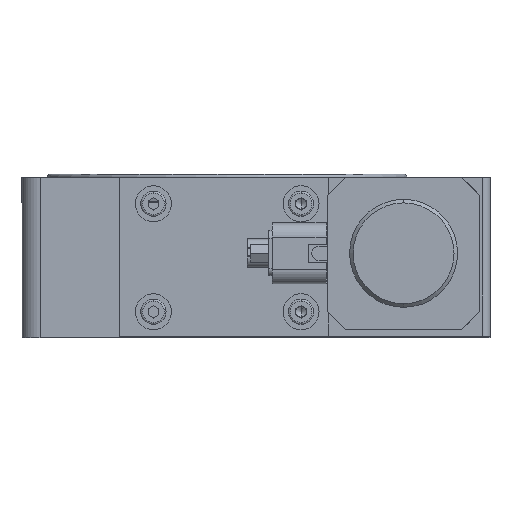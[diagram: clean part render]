
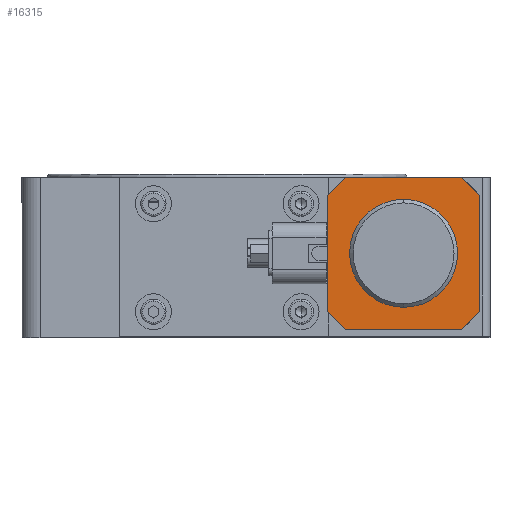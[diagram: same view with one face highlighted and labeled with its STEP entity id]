
A CAD part, front view. The second image highlights one B-rep face of the part: STEP entity #16315.
In plain terms, the highlighted planar face has unit normal (0, -1, 0).
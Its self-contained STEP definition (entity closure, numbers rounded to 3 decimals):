
#61 = CARTESIAN_POINT ( 'NONE',  ( 62.15, -101.5, 7.35 ) ) ;
#310 = DIRECTION ( 'NONE',  ( 1., 0., 0. ) ) ;
#340 = ORIENTED_EDGE ( 'NONE', *, *, #3564, .T. ) ;
#594 = DIRECTION ( 'NONE',  ( 1., 0., 0. ) ) ;
#665 = VECTOR ( 'NONE', #15042, 1000. ) ;
#696 = EDGE_LOOP ( 'NONE', ( #2695, #1306, #10348, #6926, #1589, #340, #8983, #2422 ) ) ;
#827 = EDGE_CURVE ( 'NONE', #13223, #8452, #4148, .T. ) ;
#1065 = VERTEX_POINT ( 'NONE', #2511 ) ;
#1306 = ORIENTED_EDGE ( 'NONE', *, *, #2491, .T. ) ;
#1582 = CARTESIAN_POINT ( 'NONE',  ( 24.85, -101.5, 44.65 ) ) ;
#1589 = ORIENTED_EDGE ( 'NONE', *, *, #18009, .F. ) ;
#1698 = CARTESIAN_POINT ( 'NONE',  ( 57.15, -101.5, 2.35 ) ) ;
#1976 = EDGE_CURVE ( 'NONE', #18186, #17349, #15851, .T. ) ;
#2387 = LINE ( 'NONE', #16041, #10203 ) ;
#2422 = ORIENTED_EDGE ( 'NONE', *, *, #3274, .T. ) ;
#2491 = EDGE_CURVE ( 'NONE', #18186, #1065, #3593, .T. ) ;
#2511 = CARTESIAN_POINT ( 'NONE',  ( 24.85, -101.5, 2.35 ) ) ;
#2614 = AXIS2_PLACEMENT_3D ( 'NONE', #19333, #11519, #594 ) ;
#2695 = ORIENTED_EDGE ( 'NONE', *, *, #1976, .F. ) ;
#3086 = VECTOR ( 'NONE', #18270, 1000. ) ;
#3274 = EDGE_CURVE ( 'NONE', #11503, #17349, #2387, .T. ) ;
#3564 = EDGE_CURVE ( 'NONE', #18095, #8299, #8956, .T. ) ;
#3593 = LINE ( 'NONE', #4367, #3086 ) ;
#4036 = ORIENTED_EDGE ( 'NONE', *, *, #15419, .F. ) ;
#4079 = CARTESIAN_POINT ( 'NONE',  ( 62.15, -101.5, 39.65 ) ) ;
#4148 = CIRCLE ( 'NONE', #13060, 2.5 ) ;
#4367 = CARTESIAN_POINT ( 'NONE',  ( 19.85, -101.5, 7.35 ) ) ;
#4833 = DIRECTION ( 'NONE',  ( 0., 0., -1. ) ) ;
#4986 = VECTOR ( 'NONE', #4833, 1000. ) ;
#4992 = CARTESIAN_POINT ( 'NONE',  ( 19.85, -101.5, 39.65 ) ) ;
#5249 = CARTESIAN_POINT ( 'NONE',  ( 19.85, -101.5, 7.35 ) ) ;
#5488 = LINE ( 'NONE', #9443, #4986 ) ;
#6926 = ORIENTED_EDGE ( 'NONE', *, *, #14307, .T. ) ;
#7798 = CARTESIAN_POINT ( 'NONE',  ( 19.85, -101.5, 2.35 ) ) ;
#8009 = VECTOR ( 'NONE', #18771, 1000. ) ;
#8012 = CIRCLE ( 'NONE', #2614, 2.5 ) ;
#8117 = CARTESIAN_POINT ( 'NONE',  ( 41., -101.5, 23.5 ) ) ;
#8299 = VERTEX_POINT ( 'NONE', #13040 ) ;
#8452 = VERTEX_POINT ( 'NONE', #8773 ) ;
#8585 = EDGE_CURVE ( 'NONE', #11503, #8299, #13250, .T. ) ;
#8628 = VERTEX_POINT ( 'NONE', #61 ) ;
#8696 = DIRECTION ( 'NONE',  ( 0., 0., 1. ) ) ;
#8773 = CARTESIAN_POINT ( 'NONE',  ( 43.5, -101.5, 23.5 ) ) ;
#8956 = LINE ( 'NONE', #4079, #665 ) ;
#8983 = ORIENTED_EDGE ( 'NONE', *, *, #8585, .F. ) ;
#9050 = VECTOR ( 'NONE', #11821, 1000. ) ;
#9205 = DIRECTION ( 'NONE',  ( -0.707, 0., -0.707 ) ) ;
#9443 = CARTESIAN_POINT ( 'NONE',  ( 62.15, -101.5, 2.35 ) ) ;
#9569 = ORIENTED_EDGE ( 'NONE', *, *, #827, .F. ) ;
#9680 = DIRECTION ( 'NONE',  ( 1., 0., 0. ) ) ;
#10203 = VECTOR ( 'NONE', #9205, 1000. ) ;
#10348 = ORIENTED_EDGE ( 'NONE', *, *, #19524, .F. ) ;
#10681 = VECTOR ( 'NONE', #8696, 1000. ) ;
#11008 = CARTESIAN_POINT ( 'NONE',  ( 19.85, -101.5, 2.35 ) ) ;
#11256 = DIRECTION ( 'NONE',  ( 0., 1., 0. ) ) ;
#11325 = PLANE ( 'NONE',  #18860 ) ;
#11503 = VERTEX_POINT ( 'NONE', #1582 ) ;
#11519 = DIRECTION ( 'NONE',  ( 0., -1., 0. ) ) ;
#11821 = DIRECTION ( 'NONE',  ( 1., 0., 0. ) ) ;
#12092 = CARTESIAN_POINT ( 'NONE',  ( 57.15, -101.5, 2.35 ) ) ;
#12380 = FACE_OUTER_BOUND ( 'NONE', #696, .T. ) ;
#12655 = DIRECTION ( 'NONE',  ( 0.707, 0., 0.707 ) ) ;
#13040 = CARTESIAN_POINT ( 'NONE',  ( 57.15, -101.5, 44.65 ) ) ;
#13060 = AXIS2_PLACEMENT_3D ( 'NONE', #8117, #17528, #9680 ) ;
#13223 = VERTEX_POINT ( 'NONE', #17027 ) ;
#13250 = LINE ( 'NONE', #17920, #9050 ) ;
#13713 = VECTOR ( 'NONE', #12655, 1000. ) ;
#14307 = EDGE_CURVE ( 'NONE', #16043, #8628, #18847, .T. ) ;
#14418 = CARTESIAN_POINT ( 'NONE',  ( 19.85, -101.5, 44.65 ) ) ;
#15042 = DIRECTION ( 'NONE',  ( -0.707, 0., 0.707 ) ) ;
#15419 = EDGE_CURVE ( 'NONE', #8452, #13223, #8012, .T. ) ;
#15851 = LINE ( 'NONE', #11008, #10681 ) ;
#15880 = LINE ( 'NONE', #7798, #8009 ) ;
#16041 = CARTESIAN_POINT ( 'NONE',  ( 24.85, -101.5, 44.65 ) ) ;
#16043 = VERTEX_POINT ( 'NONE', #12092 ) ;
#16090 = FACE_BOUND ( 'NONE', #18277, .T. ) ;
#16315 = ADVANCED_FACE ( 'NONE', ( #12380, #16090 ), #11325, .F. ) ;
#17027 = CARTESIAN_POINT ( 'NONE',  ( 38.5, -101.5, 23.5 ) ) ;
#17349 = VERTEX_POINT ( 'NONE', #4992 ) ;
#17528 = DIRECTION ( 'NONE',  ( 0., -1., 0. ) ) ;
#17904 = CARTESIAN_POINT ( 'NONE',  ( 62.15, -101.5, 39.65 ) ) ;
#17920 = CARTESIAN_POINT ( 'NONE',  ( 19.85, -101.5, 44.65 ) ) ;
#18009 = EDGE_CURVE ( 'NONE', #18095, #8628, #5488, .T. ) ;
#18095 = VERTEX_POINT ( 'NONE', #17904 ) ;
#18186 = VERTEX_POINT ( 'NONE', #5249 ) ;
#18270 = DIRECTION ( 'NONE',  ( 0.707, 0., -0.707 ) ) ;
#18277 = EDGE_LOOP ( 'NONE', ( #4036, #9569 ) ) ;
#18771 = DIRECTION ( 'NONE',  ( -1., 0., 0. ) ) ;
#18847 = LINE ( 'NONE', #1698, #13713 ) ;
#18860 = AXIS2_PLACEMENT_3D ( 'NONE', #14418, #11256, #310 ) ;
#19333 = CARTESIAN_POINT ( 'NONE',  ( 41., -101.5, 23.5 ) ) ;
#19524 = EDGE_CURVE ( 'NONE', #16043, #1065, #15880, .T. ) ;
